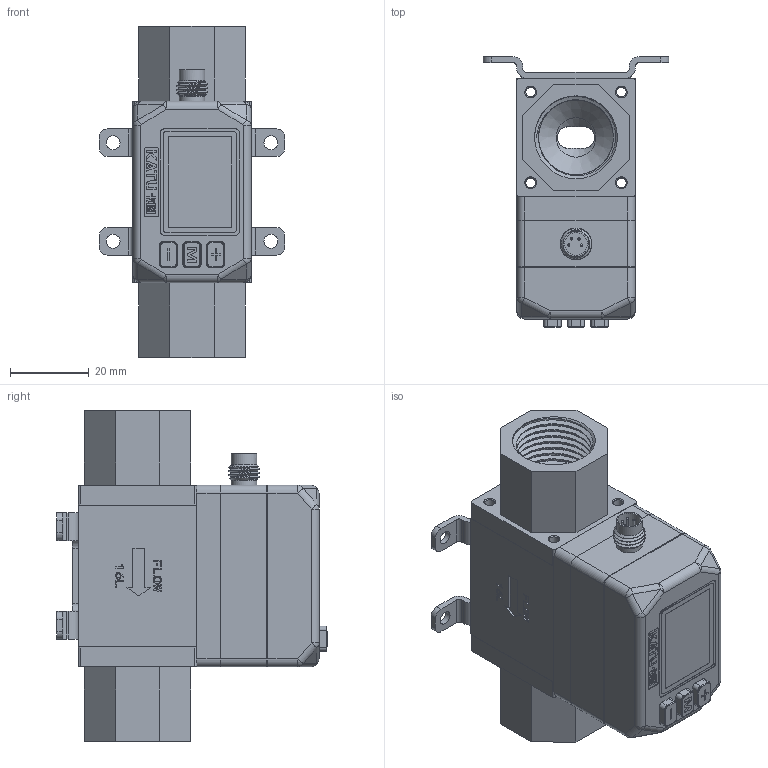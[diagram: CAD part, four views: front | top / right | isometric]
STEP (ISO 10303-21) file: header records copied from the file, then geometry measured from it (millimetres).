
FILE_DESCRIPTION( (''), '2;1');
FILE_NAME( 'QEKJ_16L_R1-2_M12_LED-display_bracket.step', '2023-12-14T18:15:03+08:00', (''), (''), '', '', '');
FILE_SCHEMA (('AUTOMOTIVE_DESIGN { 1 0 10303 214 3 1 1 1 }'));
Length unit declared in the file: millimetre
Products named in the file (1): QEKJ 16L_R1-2_M12_LED-display_bracket
Bounding box: 47 x 68.6 x 84 mm (x, y, z)
Volume: 55901.7 mm3; surface area: 49557.6 mm2
Topology: 9 solids, 30 shells, 1474 faces, 3880 edges, 2548 vertices
Faces by surface type: plane 843, cylinder 330, extrusion 189, cone 59, torus 25, sphere 20, bspline 8
Full cylindrical faces by diameter (mm): 0.6 x4, 1.2 x3, 1.5 x4, 1.7 x1, 1.8 x1, 2 x8, 2.05 x4, 2.2 x4, 2.3 x4, 2.5 x12, 3 x17, 3.5 x7, 4 x1, 4.5 x4, 5 x4, 5.5 x1, 5.8 x2, 6 x1, 6.5 x2, 7.5 x1, 8.5 x1, 10 x2, 12 x1, 14 x1, 15 x2, 19 x2, 20 x2
Entity records: 54003 total; most frequent: CARTESIAN_POINT 15600, ORIENTED_EDGE 7264, DIRECTION 6612, EDGE_CURVE 3632, VECTOR 2606, VERTEX_POINT 2466, LINE 2417, AXIS2_PLACEMENT_3D 2003
